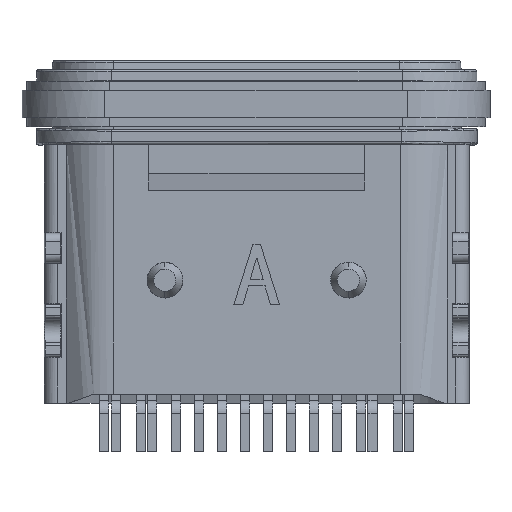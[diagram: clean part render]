
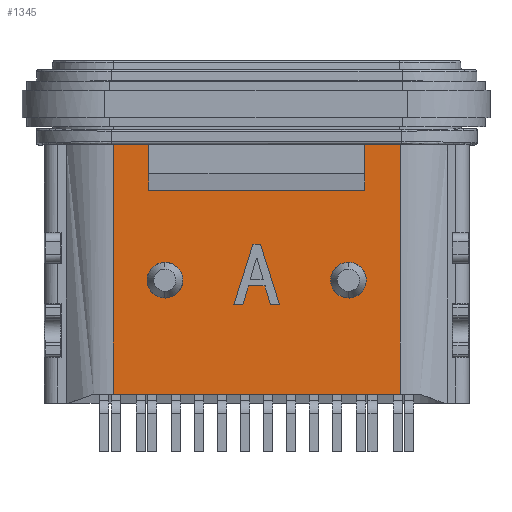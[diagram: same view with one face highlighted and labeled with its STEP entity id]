
A CAD part, front view. The second image highlights one B-rep face of the part: STEP entity #1345.
In plain terms, the highlighted planar face has unit normal (0, -1, 0).
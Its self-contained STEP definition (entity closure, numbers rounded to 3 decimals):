
#1117=CARTESIAN_POINT('',(11.625,-1.65,29.635));
#1118=VERTEX_POINT('',#1117);
#1119=CARTESIAN_POINT('',(12.405,-1.65,29.635));
#1120=VERTEX_POINT('',#1119);
#1121=CARTESIAN_POINT('',(11.625,-1.65,29.635));
#1122=CARTESIAN_POINT('',(11.625,-1.65,28.856));
#1123=CARTESIAN_POINT('',(12.405,-1.65,28.856));
#1124=CARTESIAN_POINT('',(12.405,-1.65,29.635));
#1125=(BOUNDED_CURVE() B_SPLINE_CURVE(3,(#1121,#1122,#1123,#1124),.UNSPECIFIED.,.F.,.U.)
  B_SPLINE_CURVE_WITH_KNOTS((4,4),(0.0,2.338),.UNSPECIFIED.)
  CURVE() GEOMETRIC_REPRESENTATION_ITEM() RATIONAL_B_SPLINE_CURVE((1.0,0.333,0.333,1.0))  REPRESENTATION_ITEM('') );
#1126=EDGE_CURVE('no 16288',#1118,#1120,#1125,.T.);
#1178=ORIENTED_EDGE('no 7258',*,*,#1126,.F.);
#1179=CARTESIAN_POINT('',(12.405,-1.65,29.635));
#1180=CARTESIAN_POINT('',(12.405,-1.65,30.415));
#1181=CARTESIAN_POINT('',(11.625,-1.65,30.415));
#1182=CARTESIAN_POINT('',(11.625,-1.65,29.635));
#1183=(BOUNDED_CURVE() B_SPLINE_CURVE(3,(#1179,#1180,#1181,#1182),.UNSPECIFIED.,.F.,.U.)
  B_SPLINE_CURVE_WITH_KNOTS((4,4),(0.0,2.338),.UNSPECIFIED.)
  CURVE() GEOMETRIC_REPRESENTATION_ITEM() RATIONAL_B_SPLINE_CURVE((1.0,0.333,0.333,1.0))  REPRESENTATION_ITEM('') );
#1184=EDGE_CURVE('no 4042',#1120,#1118,#1183,.T.);
#1185=ORIENTED_EDGE('no 15784',*,*,#1184,.F.);
#1186=EDGE_LOOP('',(#1178,#1185));
#1187=FACE_BOUND('',#1186,.T.);
#1188=CARTESIAN_POINT('',(9.932,-1.65,30.417));
#1189=VERTEX_POINT('',#1188);
#1190=CARTESIAN_POINT('',(9.517,-1.65,29.108));
#1191=VERTEX_POINT('',#1190);
#1192=CARTESIAN_POINT('',(9.932,-1.65,30.417));
#1193=DIRECTION('',(-0.302,0.0,-0.953));
#1194=VECTOR('',#1193,1.0);
#1195=LINE('',#1192,#1194);
#1196=EDGE_CURVE('no 7950',#1189,#1191,#1195,.T.);
#1197=ORIENTED_EDGE('no 10384',*,*,#1196,.F.);
#1198=CARTESIAN_POINT('',(10.098,-1.65,30.417));
#1199=VERTEX_POINT('',#1198);
#1200=CARTESIAN_POINT('',(10.098,-1.65,30.417));
#1201=DIRECTION('',(-1.0,0.0,0.0));
#1202=VECTOR('',#1201,1.0);
#1203=LINE('',#1200,#1202);
#1204=EDGE_CURVE('no 19508',#1199,#1189,#1203,.T.);
#1205=ORIENTED_EDGE('no 19327',*,*,#1204,.F.);
#1206=CARTESIAN_POINT('',(10.513,-1.65,29.108));
#1207=VERTEX_POINT('',#1206);
#1208=CARTESIAN_POINT('',(10.513,-1.65,29.108));
#1209=DIRECTION('',(-0.302,0.0,0.953));
#1210=VECTOR('',#1209,1.0);
#1211=LINE('',#1208,#1210);
#1212=EDGE_CURVE('no 867',#1207,#1199,#1211,.T.);
#1213=ORIENTED_EDGE('no 19834',*,*,#1212,.F.);
#1214=CARTESIAN_POINT('',(10.314,-1.65,29.108));
#1215=VERTEX_POINT('',#1214);
#1216=CARTESIAN_POINT('',(10.314,-1.65,29.108));
#1217=DIRECTION('',(1.0,0.0,0.0));
#1218=VECTOR('',#1217,1.0);
#1219=LINE('',#1216,#1218);
#1220=EDGE_CURVE('no 16034',#1215,#1207,#1219,.T.);
#1221=ORIENTED_EDGE('no 10670',*,*,#1220,.F.);
#1222=CARTESIAN_POINT('',(10.197,-1.65,29.509));
#1223=VERTEX_POINT('',#1222);
#1224=CARTESIAN_POINT('',(10.197,-1.65,29.509));
#1225=DIRECTION('',(0.278,0.0,-0.96));
#1226=VECTOR('',#1225,1.0);
#1227=LINE('',#1224,#1226);
#1228=EDGE_CURVE('no 215',#1223,#1215,#1227,.T.);
#1229=ORIENTED_EDGE('no 2796',*,*,#1228,.F.);
#1230=CARTESIAN_POINT('',(9.833,-1.65,29.509));
#1231=VERTEX_POINT('',#1230);
#1232=CARTESIAN_POINT('',(9.833,-1.65,29.509));
#1233=DIRECTION('',(1.0,0.0,0.0));
#1234=VECTOR('',#1233,1.0);
#1235=LINE('',#1232,#1234);
#1236=EDGE_CURVE('no 12998',#1231,#1223,#1235,.T.);
#1237=ORIENTED_EDGE('no 9570',*,*,#1236,.F.);
#1238=CARTESIAN_POINT('',(9.716,-1.65,29.108));
#1239=VERTEX_POINT('',#1238);
#1240=CARTESIAN_POINT('',(9.716,-1.65,29.108));
#1241=DIRECTION('',(0.278,0.0,0.96));
#1242=VECTOR('',#1241,1.0);
#1243=LINE('',#1240,#1242);
#1244=EDGE_CURVE('no 10107',#1239,#1231,#1243,.T.);
#1245=ORIENTED_EDGE('no 17647',*,*,#1244,.F.);
#1246=CARTESIAN_POINT('',(9.517,-1.65,29.108));
#1247=DIRECTION('',(1.0,0.0,0.0));
#1248=VECTOR('',#1247,1.0);
#1249=LINE('',#1246,#1248);
#1250=EDGE_CURVE('no 18698',#1191,#1239,#1249,.T.);
#1251=ORIENTED_EDGE('no 12883',*,*,#1250,.F.);
#1252=EDGE_LOOP('',(#1197,#1205,#1213,#1221,#1229,#1237,#1245,#1251));
#1253=FACE_BOUND('',#1252,.T.);
#1254=CARTESIAN_POINT('',(7.625,-1.65,29.635));
#1255=VERTEX_POINT('',#1254);
#1256=CARTESIAN_POINT('',(8.405,-1.65,29.635));
#1257=VERTEX_POINT('',#1256);
#1258=CARTESIAN_POINT('',(7.625,-1.65,29.635));
#1259=CARTESIAN_POINT('',(7.625,-1.65,28.856));
#1260=CARTESIAN_POINT('',(8.405,-1.65,28.856));
#1261=CARTESIAN_POINT('',(8.405,-1.65,29.635));
#1262=(BOUNDED_CURVE() B_SPLINE_CURVE(3,(#1258,#1259,#1260,#1261),.UNSPECIFIED.,.F.,.U.)
  B_SPLINE_CURVE_WITH_KNOTS((4,4),(0.0,2.338),.UNSPECIFIED.)
  CURVE() GEOMETRIC_REPRESENTATION_ITEM() RATIONAL_B_SPLINE_CURVE((1.0,0.333,0.333,1.0))  REPRESENTATION_ITEM('') );
#1263=EDGE_CURVE('no 19379',#1255,#1257,#1262,.T.);
#1264=ORIENTED_EDGE('no 7987',*,*,#1263,.F.);
#1265=CARTESIAN_POINT('',(8.405,-1.65,29.635));
#1266=CARTESIAN_POINT('',(8.405,-1.65,30.415));
#1267=CARTESIAN_POINT('',(7.625,-1.65,30.415));
#1268=CARTESIAN_POINT('',(7.625,-1.65,29.635));
#1269=(BOUNDED_CURVE() B_SPLINE_CURVE(3,(#1265,#1266,#1267,#1268),.UNSPECIFIED.,.F.,.U.)
  B_SPLINE_CURVE_WITH_KNOTS((4,4),(0.0,2.338),.UNSPECIFIED.)
  CURVE() GEOMETRIC_REPRESENTATION_ITEM() RATIONAL_B_SPLINE_CURVE((1.0,0.333,0.333,1.0))  REPRESENTATION_ITEM('') );
#1270=EDGE_CURVE('no 9337',#1257,#1255,#1269,.T.);
#1271=ORIENTED_EDGE('no 9429',*,*,#1270,.F.);
#1272=EDGE_LOOP('',(#1264,#1271));
#1273=FACE_BOUND('',#1272,.T.);
#1274=CARTESIAN_POINT('',(13.141,-1.65,32.597));
#1275=VERTEX_POINT('',#1274);
#1276=CARTESIAN_POINT('',(13.141,-1.65,27.15));
#1277=VERTEX_POINT('',#1276);
#1278=CARTESIAN_POINT('',(13.141,-1.65,32.597));
#1279=DIRECTION('',(0.0,0.0,-1.0));
#1280=VECTOR('',#1279,1.0);
#1281=LINE('',#1278,#1280);
#1282=EDGE_CURVE('no 7321',#1275,#1277,#1281,.T.);
#1283=ORIENTED_EDGE('no 11965',*,*,#1282,.F.);
#1284=CARTESIAN_POINT('',(12.371,-1.65,32.597));
#1285=VERTEX_POINT('',#1284);
#1286=CARTESIAN_POINT('',(12.371,-1.65,32.597));
#1287=DIRECTION('',(1.0,0.0,0.0));
#1288=VECTOR('',#1287,1.0);
#1289=LINE('',#1286,#1288);
#1290=EDGE_CURVE('no 6966',#1285,#1275,#1289,.T.);
#1291=ORIENTED_EDGE('no 4780',*,*,#1290,.F.);
#1292=CARTESIAN_POINT('',(12.371,-1.65,31.597));
#1293=VERTEX_POINT('',#1292);
#1294=CARTESIAN_POINT('',(12.371,-1.65,31.597));
#1295=DIRECTION('',(0.0,0.0,1.0));
#1296=VECTOR('',#1295,1.0);
#1297=LINE('',#1294,#1296);
#1298=EDGE_CURVE('no 4412',#1293,#1285,#1297,.T.);
#1299=ORIENTED_EDGE('no 254',*,*,#1298,.F.);
#1300=CARTESIAN_POINT('',(7.659,-1.65,31.597));
#1301=VERTEX_POINT('',#1300);
#1302=CARTESIAN_POINT('',(7.659,-1.65,31.597));
#1303=DIRECTION('',(1.0,0.0,0.0));
#1304=VECTOR('',#1303,1.0);
#1305=LINE('',#1302,#1304);
#1306=EDGE_CURVE('no 378',#1301,#1293,#1305,.T.);
#1307=ORIENTED_EDGE('no 10073',*,*,#1306,.F.);
#1308=CARTESIAN_POINT('',(7.659,-1.65,32.597));
#1309=VERTEX_POINT('',#1308);
#1310=CARTESIAN_POINT('',(7.659,-1.65,32.597));
#1311=DIRECTION('',(0.0,0.0,-1.0));
#1312=VECTOR('',#1311,1.0);
#1313=LINE('',#1310,#1312);
#1314=EDGE_CURVE('no 9749',#1309,#1301,#1313,.T.);
#1315=ORIENTED_EDGE('no 6970',*,*,#1314,.F.);
#1316=CARTESIAN_POINT('',(6.889,-1.65,32.597));
#1317=VERTEX_POINT('',#1316);
#1318=CARTESIAN_POINT('',(6.889,-1.65,32.597));
#1319=DIRECTION('',(1.0,0.0,0.0));
#1320=VECTOR('',#1319,1.0);
#1321=LINE('',#1318,#1320);
#1322=EDGE_CURVE('no 5307',#1317,#1309,#1321,.T.);
#1323=ORIENTED_EDGE('no 19301',*,*,#1322,.F.);
#1324=CARTESIAN_POINT('',(6.889,-1.65,27.15));
#1325=VERTEX_POINT('',#1324);
#1326=CARTESIAN_POINT('',(6.889,-1.65,27.15));
#1327=DIRECTION('',(0.0,0.0,1.0));
#1328=VECTOR('',#1327,1.0);
#1329=LINE('',#1326,#1328);
#1330=EDGE_CURVE('no 14711',#1325,#1317,#1329,.T.);
#1331=ORIENTED_EDGE('no 9043',*,*,#1330,.F.);
#1332=CARTESIAN_POINT('',(13.141,-1.65,27.15));
#1333=DIRECTION('',(-1.0,0.0,0.0));
#1334=VECTOR('',#1333,1.0);
#1335=LINE('',#1332,#1334);
#1336=EDGE_CURVE('no 19026',#1277,#1325,#1335,.T.);
#1337=ORIENTED_EDGE('no 10113',*,*,#1336,.F.);
#1338=EDGE_LOOP('',(#1283,#1291,#1299,#1307,#1315,#1323,#1331,#1337));
#1339=FACE_OUTER_BOUND('',#1338,.T.);
#1340=CARTESIAN_POINT('',(13.141,-1.65,27.15));
#1341=DIRECTION('',(0.0,-1.0,0.0));
#1342=DIRECTION('',(0.0,0.0,1.0));
#1343=AXIS2_PLACEMENT_3D('',#1340,#1341,#1342);
#1344=PLANE('',#1343);
#1345=ADVANCED_FACE('no 6280',(#1187,#1253,#1273,#1339),#1344,.T.);
